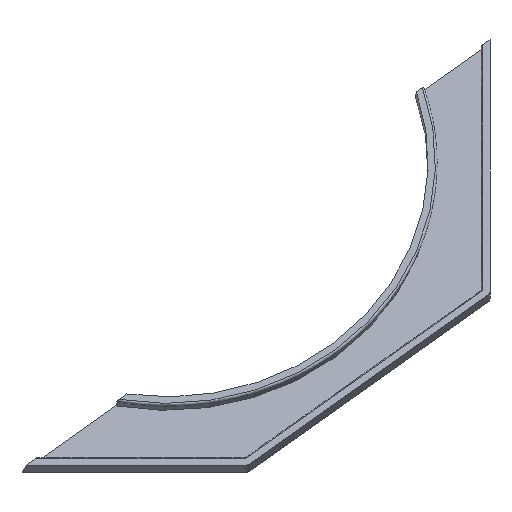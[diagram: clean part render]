
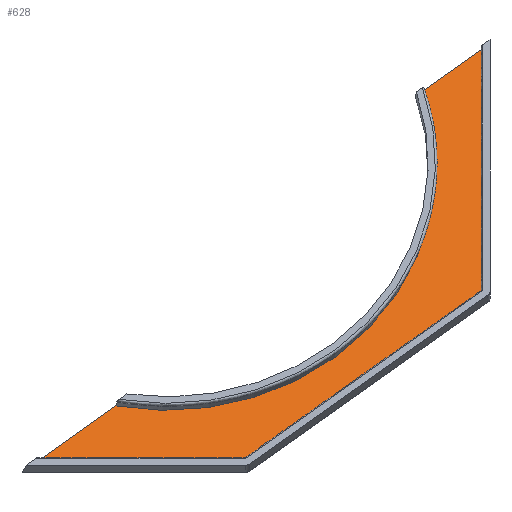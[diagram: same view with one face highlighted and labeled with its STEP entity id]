
A CAD part, front view. The second image highlights one B-rep face of the part: STEP entity #628.
In plain terms, the highlighted planar face has unit normal (0, -0.901, 0.435).
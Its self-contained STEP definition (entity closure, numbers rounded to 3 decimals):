
#14=DIRECTION('',(0.786,0.269,0.557));
#15=VECTOR('',#14,22.14);
#16=CARTESIAN_POINT('',(244.836,10.136,-153.27));
#17=LINE('',#16,#15);
#18=CARTESIAN_POINT('',(271.854,37.342,-96.891));
#19=DIRECTION('',(0.,-0.901,0.435));
#20=DIRECTION('',(-0.193,-0.426,-0.884));
#21=AXIS2_PLACEMENT_3D('',#18,#19,#20);
#23=DIRECTION('',(0.786,0.269,0.557));
#24=VECTOR('',#23,14.486);
#25=CARTESIAN_POINT('',(319.112,44.237,-82.603));
#26=LINE('',#25,#24);
#27=DIRECTION('',(-0.786,-0.269,-0.557));
#28=VECTOR('',#27,56.143);
#29=CARTESIAN_POINT('',(330.498,25.801,-120.81));
#30=LINE('',#29,#28);
#31=DIRECTION('',(-0.789,-0.268,-0.553));
#32=VECTOR('',#31,2.196);
#33=CARTESIAN_POINT('',(246.568,10.725,-152.055));
#34=LINE('',#33,#32);
#91=DIRECTION('',(1.,0.,0.));
#92=VECTOR('',#91,39.788);
#93=CARTESIAN_POINT('',(246.568,10.725,-152.055));
#94=LINE('',#93,#92);
#123=DIRECTION('',(0.,0.435,0.901));
#124=VECTOR('',#123,51.379);
#125=CARTESIAN_POINT('',(330.498,25.801,-120.81));
#126=LINE('',#125,#124);
#364=CARTESIAN_POINT('',(319.112,44.237,-82.603));
#507=CARTESIAN_POINT('',(330.498,25.801,-120.81));
#508=CARTESIAN_POINT('',(286.356,10.725,-152.055));
#509=VERTEX_POINT('',#507);
#510=VERTEX_POINT('',#508);
#521=CARTESIAN_POINT('',(330.498,48.129,-74.537));
#522=VERTEX_POINT('',#521);
#525=VERTEX_POINT('',#364);
#532=CARTESIAN_POINT('',(262.235,16.086,-140.944));
#533=VERTEX_POINT('',#532);
#534=CARTESIAN_POINT('',(246.568,10.725,-152.055));
#535=VERTEX_POINT('',#534);
#572=CARTESIAN_POINT('',(244.836,10.136,-153.27));
#573=VERTEX_POINT('',#572);
#607=CARTESIAN_POINT('',(0.,68.213,-32.914));
#608=DIRECTION('',(0.,0.901,-0.435));
#609=DIRECTION('',(-1.,0.,0.));
#610=AXIS2_PLACEMENT_3D('',#607,#608,#609);
#611=PLANE('',#610);
#613=ORIENTED_EDGE('',*,*,#612,.T.);
#615=ORIENTED_EDGE('',*,*,#614,.T.);
#617=ORIENTED_EDGE('',*,*,#616,.T.);
#619=ORIENTED_EDGE('',*,*,#618,.F.);
#621=ORIENTED_EDGE('',*,*,#620,.T.);
#623=ORIENTED_EDGE('',*,*,#622,.F.);
#625=ORIENTED_EDGE('',*,*,#624,.T.);
#626=EDGE_LOOP('',(#613,#615,#617,#619,#621,#623,#625));
#627=FACE_OUTER_BOUND('',#626,.F.);
#22=CIRCLE('',#21,49.85);
#612=EDGE_CURVE('',#573,#533,#17,.T.);
#614=EDGE_CURVE('',#533,#525,#22,.T.);
#616=EDGE_CURVE('',#525,#522,#26,.T.);
#618=EDGE_CURVE('',#509,#522,#126,.T.);
#620=EDGE_CURVE('',#509,#510,#30,.T.);
#622=EDGE_CURVE('',#535,#510,#94,.T.);
#624=EDGE_CURVE('',#535,#573,#34,.T.);
#628=ADVANCED_FACE('',(#627),#611,.F.);
